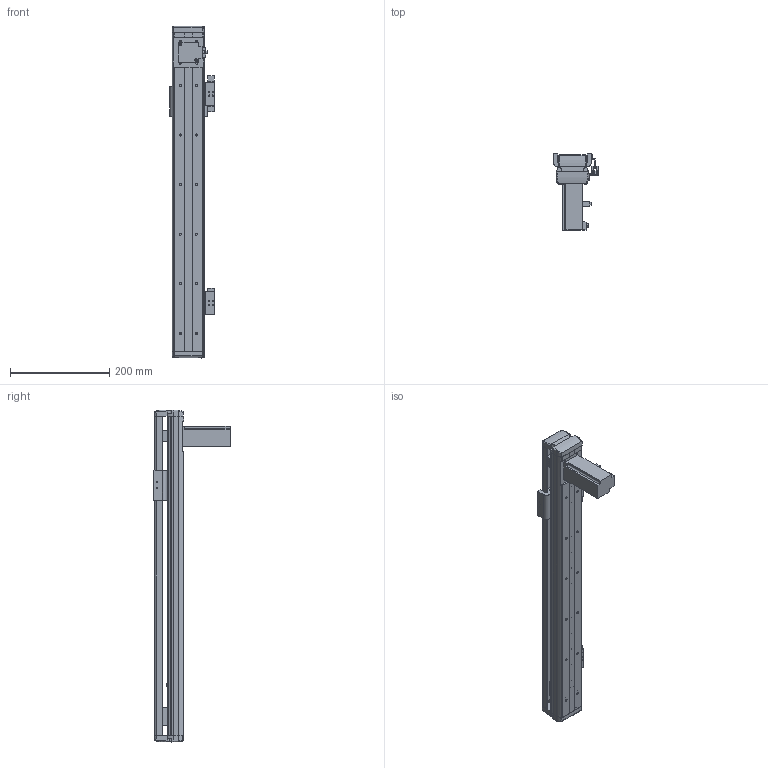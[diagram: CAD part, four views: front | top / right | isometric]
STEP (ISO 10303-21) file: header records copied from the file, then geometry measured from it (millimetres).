
FILE_DESCRIPTION (( 'STEP AP203' ), '1' );
FILE_NAME ('EXT65T-400.STEP', '2016-02-22T06:35:22', ( 'QQ' ), ( '' ), 'SwSTEP 2.0', 'SolidWorks 2013', '' );
FILE_SCHEMA (( 'CONFIG_CONTROL_DESIGN' ));
Length unit declared in the file: millimetre
Products named in the file (1): EXT65T-400
Bounding box: 90.5 x 153.5 x 670.01 mm (x, y, z)
Volume: 1212869.6 mm3; surface area: 466993 mm2
Topology: 33 solids, 33 shells, 1625 faces, 4404 edges, 2921 vertices
Faces by surface type: cylinder 857, plane 698, bspline 58, cone 12
Entity records: 55366 total; most frequent: CARTESIAN_POINT 12613, DIRECTION 9166, ORIENTED_EDGE 8806, EDGE_CURVE 4403, AXIS2_PLACEMENT_3D 3367, VERTEX_POINT 2921, LINE 2432, VECTOR 2432
